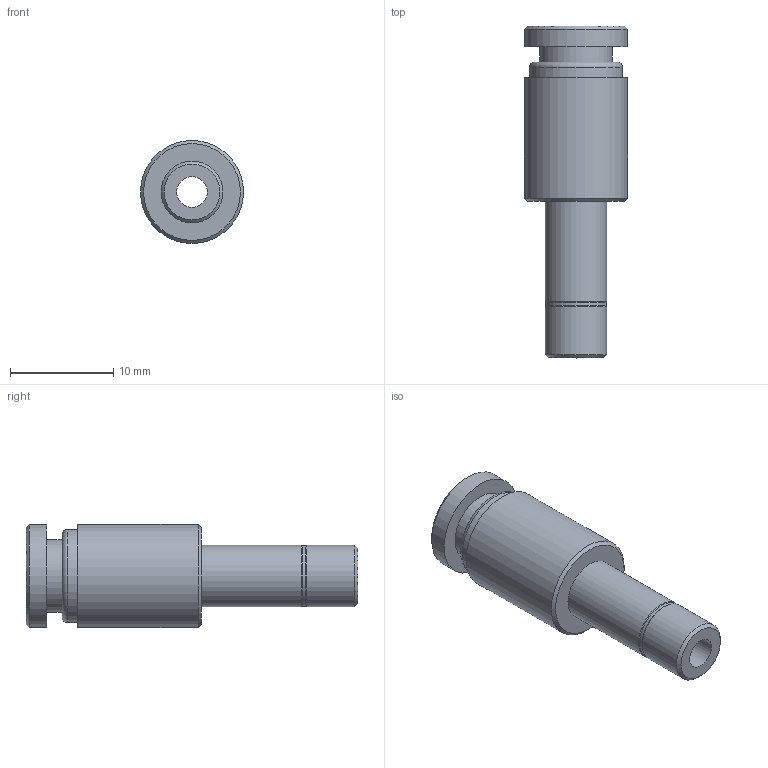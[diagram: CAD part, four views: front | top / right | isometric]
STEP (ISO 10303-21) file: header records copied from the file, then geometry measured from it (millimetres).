
FILE_DESCRIPTION(/* description */ (''),/* implementation_level */ '2;1');
FILE_NAME(/* name */ 'LXH66 0604 00.stp',/* time_stamp */ '2026-04-19T15:12:53+02:00',/* author */ ('freju'),/* organization */ (''),/* preprocessor_version */ 'ST-DEVELOPER v20.1',/* originating_system */ 'Autodesk Inventor 2026',/* authorisation */ '');
FILE_SCHEMA (('AUTOMOTIVE_DESIGN { 1 0 10303 214 3 1 1 }'));
Length unit declared in the file: millimetre
Products named in the file (1): LXH66 0604 00
Bounding box: 10 x 32.2 x 10 mm (x, y, z)
Volume: 1372.4 mm3; surface area: 1351.9 mm2
Topology: 1 solids, 1 shells, 22 faces, 41 edges, 26 vertices
Faces by surface type: cylinder 9, plane 7, torus 3, cone 3
Full cylindrical faces by diameter (mm): 3 x1, 4 x1, 5.9 x1, 6 x2, 7 x1, 9 x1, 10 x2
Entity records: 609 total; most frequent: DIRECTION 116, CARTESIAN_POINT 90, ORIENTED_EDGE 82, AXIS2_PLACEMENT_3D 52, EDGE_CURVE 41, EDGE_LOOP 29, CIRCLE 29, VERTEX_POINT 26
